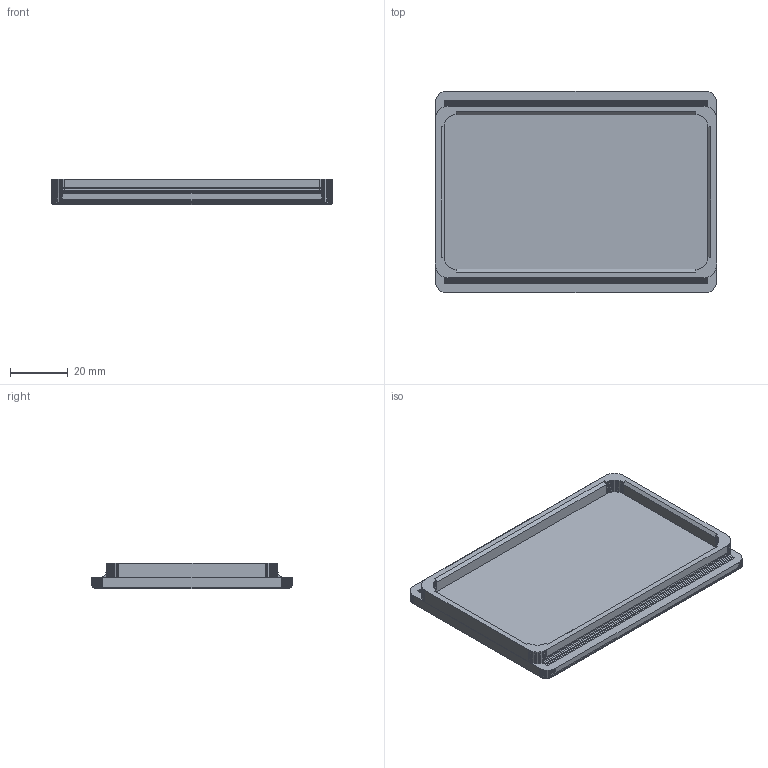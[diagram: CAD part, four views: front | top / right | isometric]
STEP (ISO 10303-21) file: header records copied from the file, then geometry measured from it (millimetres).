
FILE_DESCRIPTION(('Open CASCADE Model'),'2;1');
FILE_NAME('Open CASCADE Shape Model','2026-11-27T19:31:41',('Author'),( 'Open CASCADE'),'Open CASCADE STEP processor 8.0','build123d', 'Unknown');
FILE_SCHEMA(('AUTOMOTIVE_DESIGN { 1 0 10303 214 1 1 1 1 }'));
Length unit declared in the file: millimetre
Products named in the file (2): =>[0:1:1:2]; SOLID
Assembly tree (1 placements, depth 2):
  =>[0:1:1:2]
    SOLID
Bounding box: 98 x 70 x 9 mm (x, y, z)
Volume: 31755.7 mm3; surface area: 17524.4 mm2
Topology: 1 solids, 1 shells, 296 faces, 864 edges, 572 vertices
Faces by surface type: plane 296
Entity records: 20672 total; most frequent: CARTESIAN_POINT 3622, DIRECTION 3028, LINE 2432, VECTOR 2432, ORIENTED_EDGE 1728, PCURVE 1728, DEFINITIONAL_REPRESENTATION 1728, EDGE_CURVE 864
